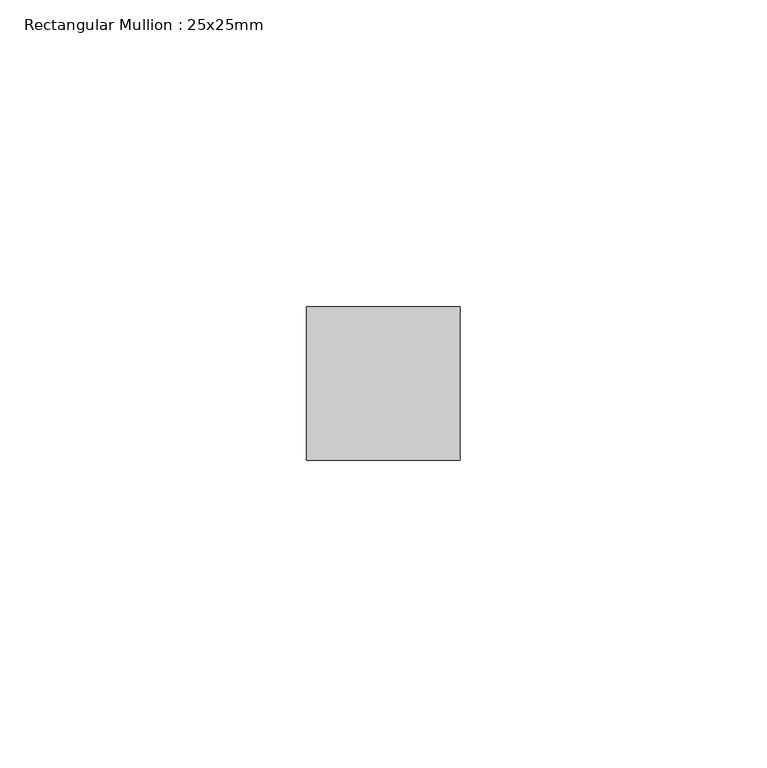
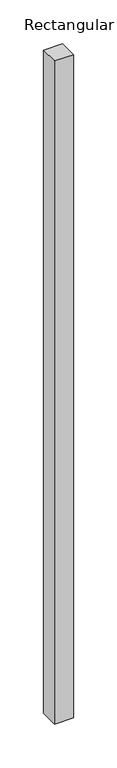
"""IFC4 building model written with IfcOpenShell, lengths in millimetres: member geometry, Rectangular Mullion : 25x25mm."""

from ifc_helpers import new_model, si_unit, frame, origin, place, context, project, spatial, polyline, outline, extrude, source, transform, mapped, element, save


def rectangular_mullion_25x25mm_fdefeb7a(model_context):
    return source(origin(), model_context, "Body", "SweptSolid", [
        extrude(outline(polyline([(0.0, 24.5), (0.0, -0.5), (-25.0, -0.5), (-25.0, 24.5), (0.0, 24.5)])), frame((0.0, 0.0, -925.0), z_axis=(0.0, 0.0, 1.0), x_axis=(1.0, 0.0, 0.0)), (0.0, 0.0, 1.0), 925.0),
    ])


if __name__ == "__main__":
    model = new_model("IFC4")
    model_context = context("Model", 3, world=origin())
    ifc_project = project(units=[si_unit("LENGTHUNIT", "METRE", prefix="MILLI")], contexts=[model_context])
    site = spatial("IfcSite", under=ifc_project)
    building = spatial("IfcBuilding", under=site)
    placement = place(None, origin())
    rectangular_mullion_25x25mm_shape = rectangular_mullion_25x25mm_fdefeb7a(model_context)
    element("IfcMember", 1, ObjectType="Rectangular Mullion : 25x25mm", at=placement, inside=building, context=model_context, shape_type="MappedRepresentation", body=[
        mapped(rectangular_mullion_25x25mm_shape, transform((0.0, 0.0, 0.0), x_axis=(1.0, 0.0, 0.0), y_axis=(0.0, 1.0, 0.0), z_axis=(0.0, 0.0, 1.0))),
    ])
    save(model, "model.ifc")
